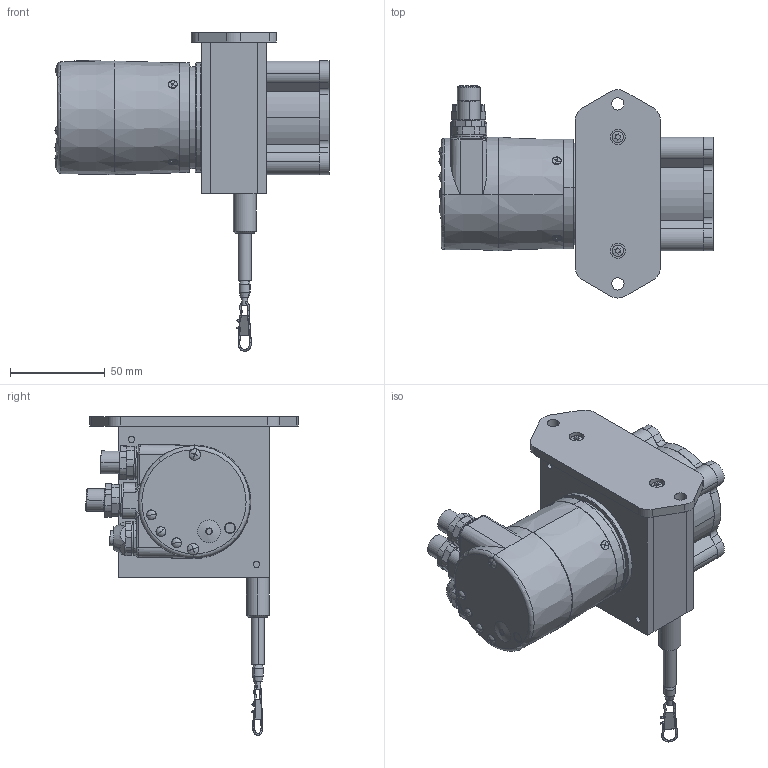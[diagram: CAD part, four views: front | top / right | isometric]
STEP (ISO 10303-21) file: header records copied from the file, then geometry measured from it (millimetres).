
FILE_DESCRIPTION (( 'STEP AP214' ), '1' );
FILE_NAME ('D8.4B1.0200.6832.3113.STEP', '2009-04-02T08:20:00', ( 'admin' ), ( 'Fritz Kübler GmbH' ), 'SwSTEP 2.0', 'SolidWorks 2008', '' );
FILE_SCHEMA (( 'AUTOMOTIVE_DESIGN' ));
Length unit declared in the file: millimetre
Products named in the file (1): D8.4B1.0200.6832.3113
Bounding box: 144.65 x 112.09 x 168.32 mm (x, y, z)
Volume: 232487.1 mm3; surface area: 145806.6 mm2
Topology: 32 solids, 33 shells, 1668 faces, 4040 edges, 2495 vertices
Faces by surface type: cylinder 649, plane 556, cone 257, torus 122, bspline 58, sphere 26
Entity records: 71023 total; most frequent: CARTESIAN_POINT 12929, DIRECTION 8648, ORIENTED_EDGE 7964, EDGE_CURVE 3982, AXIS2_PLACEMENT_3D 3438, VERTEX_POINT 2495, EDGE_LOOP 1891, CIRCLE 1827
